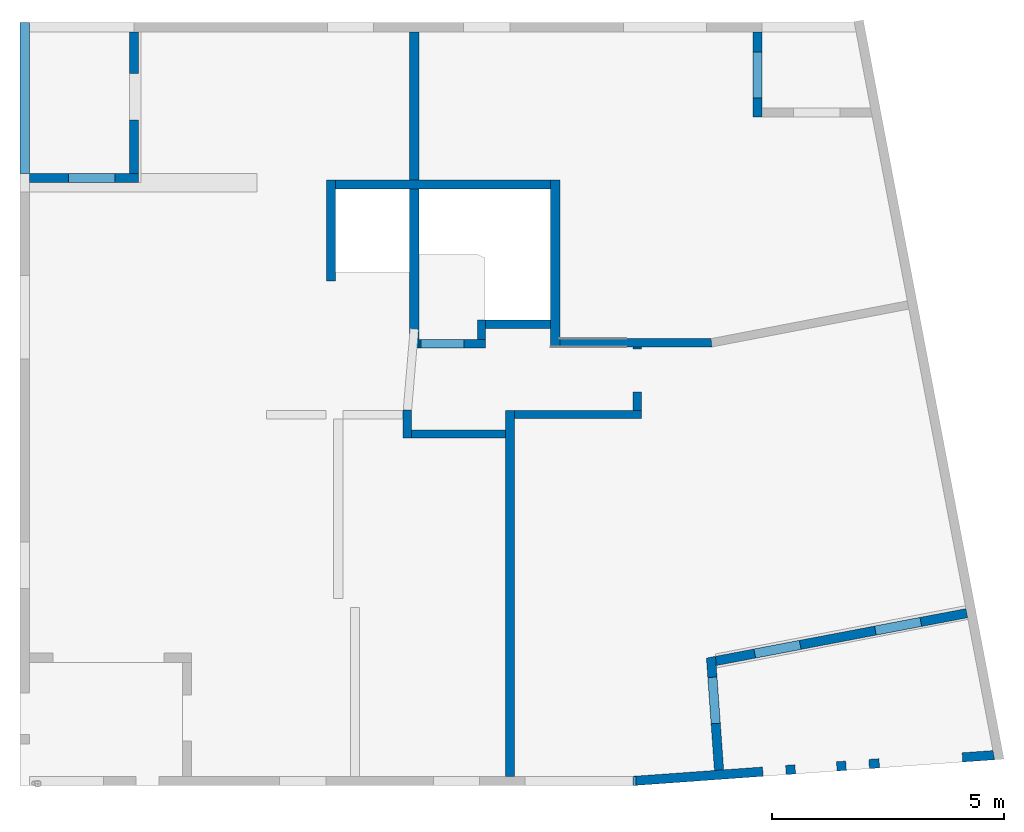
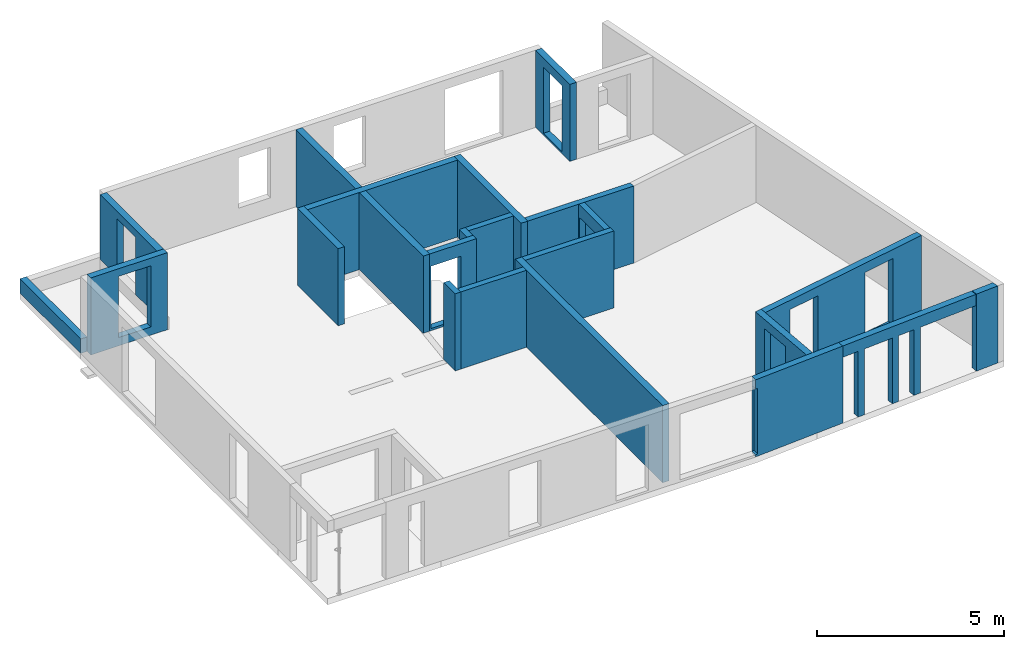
# One storey, part 2 of 3: 22 walls, 15 openings.
"""IFC2X3 building model written with IfcOpenShell, lengths in centimetres."""

from ifc_helpers import new_model, entity, si_unit, converted_unit, derived_unit, direction, frame, frame_2d, origin, place, context, subcontext, project, spatial, polyline, rectangle, outline, extrude, clip, bounded_halfspace, material, layer, layer_set, layer_usage, type_object, element, save


model = new_model("IFC2X3")

# Units and contexts
model_context = context("Model", 3, precision=0.001, world=origin(), true_north=direction((6.12303176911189e-17, 1.0)))
body_context = subcontext(model_context, "Body", "Model", "MODEL_VIEW")
ifc_project = project(units=[si_unit("LENGTHUNIT", "METRE", prefix="CENTI"), si_unit("AREAUNIT", "SQUARE_METRE"), si_unit("VOLUMEUNIT", "CUBIC_METRE"), converted_unit("PLANEANGLEUNIT", "DEGREE", entity("IfcRatioMeasure", 0.0174532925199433), si_unit("PLANEANGLEUNIT", "RADIAN"), dimensions=[0, 0, 0, 0, 0, 0, 0]), si_unit("MASSUNIT", "GRAM", prefix="KILO"), si_unit("TIMEUNIT", "SECOND"), si_unit("FREQUENCYUNIT", "HERTZ"), si_unit("THERMODYNAMICTEMPERATUREUNIT", "DEGREE_CELSIUS"), derived_unit("THERMALTRANSMITTANCEUNIT", [(si_unit("MASSUNIT", "GRAM", prefix="KILO"), 1), (si_unit("THERMODYNAMICTEMPERATUREUNIT", "KELVIN"), -1), (si_unit("TIMEUNIT", "SECOND"), -3)]), derived_unit("VOLUMETRICFLOWRATEUNIT", [(si_unit("LENGTHUNIT", "METRE"), 3), (si_unit("TIMEUNIT", "SECOND"), -1)]), si_unit("ELECTRICCURRENTUNIT", "AMPERE"), si_unit("ELECTRICVOLTAGEUNIT", "VOLT"), si_unit("POWERUNIT", "WATT"), si_unit("FORCEUNIT", "NEWTON"), si_unit("ILLUMINANCEUNIT", "LUX"), si_unit("LUMINOUSFLUXUNIT", "LUMEN"), si_unit("LUMINOUSINTENSITYUNIT", "CANDELA"), derived_unit("USERDEFINED", [(si_unit("MASSUNIT", "GRAM", prefix="KILO"), -1), (si_unit("LENGTHUNIT", "METRE"), -2), (si_unit("TIMEUNIT", "SECOND"), 3), (si_unit("LUMINOUSFLUXUNIT", "LUMEN"), 1)]), derived_unit("LINEARVELOCITYUNIT", [(si_unit("LENGTHUNIT", "METRE"), 1), (si_unit("TIMEUNIT", "SECOND"), -1)]), si_unit("PRESSUREUNIT", "PASCAL"), derived_unit("USERDEFINED", [(si_unit("LENGTHUNIT", "METRE"), -2), (si_unit("MASSUNIT", "GRAM", prefix="KILO"), 1), (si_unit("TIMEUNIT", "SECOND"), -2)])], contexts=[model_context])

# Site, building, storey
site_placement = place(None, origin())
site = spatial("IfcSite", under=ifc_project, at=site_placement, Name="Default", CompositionType="ELEMENT")
building_placement = place(site_placement, origin())
building = spatial("IfcBuilding", under=site, at=building_placement, CompositionType="ELEMENT")
storey_placement = place(building_placement, frame((0.0, 0.0, 272.0)))
storey = spatial("IfcBuildingStorey", under=building, at=storey_placement, Name="R+1", CompositionType="ELEMENT", Elevation=271.999999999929)

# Wall, opening
ifc_material_1 = material(Name="Maçonnerie - Béton")
ifc_layer_1 = layer(ifc_material_1, 20.0)
ifc_layer_set_1 = layer_set([ifc_layer_1], Name="Mur de base:BBM_20")
ifc_layer_usage_1 = layer_usage(ifc_layer_set_1, "AXIS2", "POSITIVE", -10.0)
wall_type_1 = type_object("IfcWallType", Name="Mur de base:BBM_20", PredefinedType="STANDARD", material=ifc_layer_set_1)
wall_1_placement = place(storey_placement, frame((896.385889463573, 24519.301413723, -7.0)))
wall_1 = element("IfcWallStandardCase", 1, at=wall_1_placement, inside=storey, type_object=wall_type_1, material=ifc_layer_usage_1, Name="Mur de base:BBM_20", ObjectType="Mur de base:BBM_20", context=body_context, shape_type="Clipping", body=[
    clip(extrude(rectangle(XDim=236.02536059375, YDim=20.0000000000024, at=frame_2d((118.012680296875, 0.0), x_axis=(-1.0, 0.0))), origin(), (0.0, 0.0, 1.0), 252.000000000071), bounded_halfspace(frame((0.0, -10.0, 252.0), z_axis=(0.0, 0.0, -1.0), x_axis=(0.0, -1.0, 0.0)), True, frame((0.0, -10.0, 252.0)), polyline([(0.0, 0.0), (236.02536059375, 0.0), (236.02536059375, 20.0), (216.02536059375, 20.0), (0.0, 20.0), (0.0, 0.0)]))),
])
opening_1_placement = place(wall_1_placement, frame((-896.385889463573, -24519.301413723, 7.0)))
element("IfcOpeningElement", 2, at=opening_1_placement, cuts=wall_1, Name="Mur de base:BBM_20", ObjectType="Opening", context=body_context, shape_type="SweptSolid", body=[
    extrude(rectangle(XDim=200.0, YDim=100.0, at=frame_2d((-1.10134124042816e-13, 0.0), x_axis=(0.0, 1.0))), frame((1031.41125005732, 24356.901413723, 120.0), z_axis=(0.0, 1.0, 0.0), x_axis=(1.0, 0.0, 0.0)), (0.0, 0.0, 1.0), 304.8),
])

ifc_layer_usage_2 = layer_usage(ifc_layer_set_1, "AXIS2", "POSITIVE", -10.0)
wall_2_placement = place(storey_placement, frame((1122.41125005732, 24529.301413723, 33.0), z_axis=(0.0, 0.0, 1.0), x_axis=(0.0, 1.0, 0.0)))
wall_2 = element("IfcWallStandardCase", 3, at=wall_2_placement, inside=storey, type_object=wall_type_1, material=ifc_layer_usage_2, Name="Mur de base:BBM_20", ObjectType="Mur de base:BBM_20", context=body_context, shape_type="Clipping", body=[
    clip(extrude(rectangle(XDim=305.113246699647, YDim=20.0000000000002, at=frame_2d((152.556623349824, 0.0), x_axis=(-1.0, 0.0))), origin(), (0.0, 0.0, 1.0), 212.000000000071), bounded_halfspace(frame((0.0, -10.0, 212.0), z_axis=(0.0, 0.0, -1.0), x_axis=(-1.0, 0.0, 0.0)), True, frame((0.0, -10.0, 212.0)), polyline([(0.0, 0.0), (305.113246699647, 0.0), (305.113246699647, 20.0), (0.0, 20.0), (0.0, 0.0)]))),
])
opening_2_placement = place(wall_2_placement, frame((-24529.301413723, 1122.41125005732, -33.0), z_axis=(0.0, 0.0, 1.0), x_axis=(0.0, -1.0, 0.0)))
element("IfcOpeningElement", 4, at=opening_2_placement, cuts=wall_2, Name="Mur de base:BBM_20", ObjectType="Opening", context=body_context, shape_type="SweptSolid", body=[
    extrude(rectangle(XDim=200.0, YDim=100.000000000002, at=frame_2d((0.0, -1.73372427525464e-12), x_axis=(1.0, 0.0))), frame((1264.81125005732, 24694.4143798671, 120.0), z_axis=(-1.0, 0.0, 0.0), x_axis=(0.0, 0.0, -1.0)), (0.0, 0.0, 1.0), 304.8),
])

ifc_layer_usage_3 = layer_usage(ifc_layer_set_1, "AXIS2", "NEGATIVE", 10.0)
wall_3_placement = place(storey_placement, frame((2468.78827646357, 24650.4665988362, -7.0), z_axis=(0.0, 0.0, 1.0), x_axis=(0.0, 1.0, 0.0)))
wall_3 = element("IfcWallStandardCase", 5, at=wall_3_placement, inside=storey, type_object=wall_type_1, material=ifc_layer_usage_3, Name="Mur de base:BBM_20", ObjectType="Mur de base:BBM_20", context=body_context, shape_type="Clipping", body=[
    clip(extrude(rectangle(XDim=183.948061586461, YDim=19.9999999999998, at=frame_2d((91.9740307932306, 0.0), x_axis=(-1.0, 0.0))), origin(), (0.0, 0.0, 1.0), 252.000000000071), bounded_halfspace(frame((0.0, -10.0, 252.0), z_axis=(0.0, 0.0, -1.0), x_axis=(-1.0, 0.0, 0.0)), True, frame((0.0, -10.0, 252.0)), polyline([(0.0, 0.0), (20.0, 0.0), (159.644905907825, 0.0), (183.948061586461, 0.0), (183.948061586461, 20.0), (0.0, 20.0), (0.0, 0.0)]))),
])
opening_3_placement = place(wall_3_placement, frame((-24650.4665988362, 2468.78827646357, 7.0), z_axis=(0.0, 0.0, 1.0), x_axis=(0.0, -1.0, 0.0)))
element("IfcOpeningElement", 6, at=opening_3_placement, cuts=wall_3, Name="Mur de base:BBM_20", ObjectType="Opening", context=body_context, shape_type="SweptSolid", body=[
    extrude(rectangle(XDim=215.0, YDim=100.000000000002, at=frame_2d((2.1316282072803e-14, 1.73372427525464e-12), x_axis=(1.0, 0.0))), frame((2611.18827646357, 24741.4665988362, 107.5), z_axis=(-1.0, 0.0, 0.0), x_axis=(0.0, 0.0, -1.0)), (0.0, 0.0, 1.0), 304.8),
])

# Wall, openings
ifc_layer_usage_4 = layer_usage(ifc_layer_set_1, "AXIS2", "NEGATIVE", 10.0)
wall_4_placement = place(storey_placement, frame((2377.58832301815, 23476.1672164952, -7.0), z_axis=(0.0, 0.0, 1.0), x_axis=(0.982345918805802, 0.187073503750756, 0.0)))
wall_4 = element("IfcWallStandardCase", 7, at=wall_4_placement, inside=storey, type_object=wall_type_1, material=ifc_layer_usage_4, Name="Mur de base:BBM_20", ObjectType="Mur de base:BBM_20", context=body_context, shape_type="Clipping", body=[
    clip(extrude(outline(polyline([(552.583846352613, -10.0), (552.583846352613, 10.0), (2.34328815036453, 10.0), (0.0, -10.0), (552.583846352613, -10.0)])), origin(), (0.0, 0.0, 1.0), 252.000000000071), bounded_halfspace(frame((0.0, -10.0, 252.0), z_axis=(0.0, 0.0, -1.0), x_axis=(-0.187073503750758, -0.982345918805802, 0.0)), True, frame((0.0, -10.0, 252.0)), polyline([(0.0, 0.0), (552.583846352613, 0.0), (552.583846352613, 20.0), (2.34328815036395, 20.0), (0.0, 0.0)]))),
])
opening_4_placement = place(wall_4_placement, frame((-6727.3830415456, -22616.9332762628, 7.0), z_axis=(0.0, 0.0, 1.0), x_axis=(0.982345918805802, -0.187073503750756, 0.0)))
element("IfcOpeningElement", 8, at=opening_4_placement, cuts=wall_4, Name="Mur de base:BBM_20", ObjectType="Opening", context=body_context, shape_type="SweptSolid", body=[
    extrude(rectangle(XDim=215.0, YDim=100.0, at=frame_2d((2.8421709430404e-14, 0.0), x_axis=(1.0, 0.0))), frame((2538.40017399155, 23361.8323763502, 107.5), z_axis=(-0.18707350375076, 0.982345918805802, 0.0), x_axis=(0.0, 0.0, -1.0)), (0.0, 0.0, 1.0), 304.800000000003),
])
opening_5_placement = place(wall_4_placement, frame((-6727.3830415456, -22616.9332762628, 7.0), z_axis=(0.0, 0.0, 1.0), x_axis=(0.982345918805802, -0.187073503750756, 0.0)))
element("IfcOpeningElement", 9, at=opening_5_placement, cuts=wall_4, Name="Mur de base:BBM_20", ObjectType="Opening", context=body_context, shape_type="SweptSolid", body=[
    extrude(rectangle(XDim=215.0, YDim=100.0, at=frame_2d((-2.1316282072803e-13, 2.8421709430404e-14), x_axis=(0.0, 1.0))), frame((2802.4633125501, 23391.7599364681, 107.5), z_axis=(-0.187073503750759, 0.982345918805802, 0.0), x_axis=(0.982345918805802, 0.187073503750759, 0.0)), (0.0, 0.0, 1.0), 304.800000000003),
])

# Wall, opening
ifc_layer_usage_5 = layer_usage(ifc_layer_set_1, "AXIS2", "POSITIVE", -10.0)
wall_5_placement = place(storey_placement, frame((2368.04509330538, 23485.7141576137, -7.0), z_axis=(0.0, 0.0, 1.0), x_axis=(0.0714885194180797, -0.997441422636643, 0.0)))
wall_5 = element("IfcWallStandardCase", 10, at=wall_5_placement, inside=storey, type_object=wall_type_1, material=ifc_layer_usage_5, Name="Mur de base:BBM_20", ObjectType="Mur de base:BBM_20", context=body_context, shape_type="Clipping", body=[
    clip(extrude(outline(polyline([(245.696513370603, -10.0), (245.696513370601, 10.0), (20.1368070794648, 10.0), (0.0, 10.0), (2.34328815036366, -10.0), (245.696513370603, -10.0)])), origin(), (0.0, 0.0, 1.0), 252.000000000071), bounded_halfspace(frame((2.34328815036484, -10.0, 252.0), z_axis=(0.0, 0.0, -1.0), x_axis=(0.997441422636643, -0.0714885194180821, 0.0)), True, frame((2.34328815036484, -10.0, 252.0)), polyline([(0.0, 0.0), (243.353225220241, 0.0), (243.353225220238, 20.0), (17.7935189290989, 20.0), (-2.34328815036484, 20.0), (0.0, 0.0)]))),
])
opening_6_placement = place(wall_5_placement, frame((23256.3361033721, -4040.94519933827, 7.0), z_axis=(0.0, 0.0, 1.0), x_axis=(0.0714885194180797, 0.997441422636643, 0.0)))
element("IfcOpeningElement", 11, at=opening_6_placement, cuts=wall_5, Name="Mur de base:BBM_20", ObjectType="Opening", context=body_context, shape_type="SweptSolid", body=[
    extrude(rectangle(XDim=215.0, YDim=100.000000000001, at=frame_2d((2.8421709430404e-14, -1.74082970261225e-12), x_axis=(1.0, 0.0))), frame((2232.77914825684, 23381.0799674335, 107.5), z_axis=(0.997441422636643, 0.0714885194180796, 0.0), x_axis=(0.0, 0.0, -1.0)), (0.0, 0.0, 1.0), 304.800000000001),
])

# Wall, openings
ifc_layer_usage_6 = layer_usage(ifc_layer_set_1, "AXIS2", "POSITIVE", -10.0)
wall_6_placement = place(storey_placement, frame((2199.41667355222, 23217.2758279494, -7.0), z_axis=(0.0, 0.0, 1.0), x_axis=(0.997441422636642, 0.0714885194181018, 0.0)))
wall_6 = element("IfcWallStandardCase", 12, at=wall_6_placement, inside=storey, type_object=wall_type_1, material=ifc_layer_usage_6, Name="Mur de base:BBM_20", ObjectType="Mur de base:BBM_20", context=body_context, shape_type="Clipping", body=[
    clip(clip(extrude(outline(polyline([(281.435112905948, -10.0), (281.435112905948, 10.0), (197.387229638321, 10.0), (177.387229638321, 10.0), (0.715800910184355, 10.0), (0.0, -10.0), (281.435112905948, -10.0)])), origin(), (0.0, 0.0, 1.0), 252.000000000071), bounded_halfspace(frame((0.0, -10.0, 252.0), z_axis=(0.0, 0.0, -1.0), x_axis=(-0.0714885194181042, -0.997441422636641, 0.0)), True, frame((0.0, -10.0, 252.0)), polyline([(0.0, 0.0), (197.38722963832, 0.0), (197.387229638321, 20.0), (177.387229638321, 20.0), (0.715800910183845, 20.0), (0.0, 0.0)]))), bounded_halfspace(frame((197.387229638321, -10.0, 252.0), z_axis=(0.0, 0.0, -1.0), x_axis=(0.11636840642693, -0.993206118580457, 0.0)), True, frame((197.387229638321, -10.0, 252.0)), polyline([(0.0, 0.0), (84.0478832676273, 0.0), (84.0478832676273, 20.0), (0.0, 20.0), (0.0, 0.0)]))),
])
opening_7_placement = place(wall_6_placement, origin())
element("IfcOpeningElement", 13, at=opening_7_placement, cuts=wall_6, Name="Mur de base:BBM_20", ObjectType="Opening", context=body_context, shape_type="SweptSolid", body=[
    extrude(rectangle(XDim=215.0, YDim=240.0, at=frame_2d((0.0, 2.8421709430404e-14), x_axis=(0.0, 1.0))), frame((-113.692399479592, -1.85144999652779, 114.5), z_axis=(0.0714885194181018, 0.997441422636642, 0.0), x_axis=(0.997441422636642, -0.0714885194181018, 0.0)), (0.0, 0.0, 1.0), 19.9999999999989),
])
opening_8_placement = place(wall_6_placement, origin())
element("IfcOpeningElement", 14, at=opening_8_placement, cuts=wall_6, Name="Mur de base:BBM_20", ObjectType="Opening", context=body_context, shape_type="SweptSolid", body=[
    extrude(rectangle(XDim=215.0, YDim=49.9999999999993, at=frame_2d((-2.1316282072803e-14, 2.16715534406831e-13), x_axis=(1.0, 0.0))), frame((306.435112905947, -142.399999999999, 107.5), z_axis=(0.0, 1.0, 0.0), x_axis=(0.0, 0.0, -1.0)), (0.0, 0.0, 1.0), 304.8),
])

# Wall, opening
ifc_layer_usage_7 = layer_usage(ifc_layer_set_1, "AXIS2", "POSITIVE", -10.0)
wall_7_placement = place(storey_placement, frame((2909.04162327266, 23267.9943705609, -7.0), z_axis=(0.0, 0.0, 1.0), x_axis=(0.997441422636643, 0.0714885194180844, 0.0)))
wall_7 = element("IfcWallStandardCase", 15, at=wall_7_placement, inside=storey, type_object=wall_type_1, material=ifc_layer_usage_7, Name="Mur de base:BBM_20", ObjectType="Mur de base:BBM_20", context=body_context, shape_type="Clipping", body=[
    clip(extrude(outline(polyline([(68.7599523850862, 10.0), (2.0, 10.0), (2.0, -10.0), (71.1032405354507, -10.0), (68.7599523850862, 10.0)])), origin(), (0.0, 0.0, 1.0), 252.000000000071), bounded_halfspace(frame((71.0866896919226, -9.85873829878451, 252.0), z_axis=(0.0, 0.0, -1.0), x_axis=(0.116368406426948, -0.993206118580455, 0.0)), True, frame((71.0866896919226, -9.85873829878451, 252.0)), polyline([(0.0, 0.0), (-2.32673730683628, 19.8587382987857), (-71.0866896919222, 19.8587382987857), (-71.0866896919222, 0.0), (0.0, 0.0)]))),
])
opening_9_placement = place(wall_7_placement, origin())
element("IfcOpeningElement", 16, at=opening_9_placement, cuts=wall_7, Name="Mur de base:BBM_20", ObjectType="Opening", context=body_context, shape_type="SweptSolid", body=[
    extrude(rectangle(XDim=215.0, YDim=180.0, at=frame_2d((-2.20268248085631e-13, -2.8421709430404e-14), x_axis=(0.0, 1.0))), frame((-88.0, -162.258738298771, 107.5), z_axis=(0.0, 1.0, 0.0), x_axis=(1.0, 0.0, 0.0)), (0.0, 0.0, 1.0), 304.8),
])

# Walls
ifc_layer_usage_8 = layer_usage(ifc_layer_set_1, "AXIS2", "NEGATIVE", 10.0)
wall_8_placement = place(storey_placement, frame((886.385889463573, 24529.301413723, -7.0), z_axis=(0.0, 0.0, 1.0), x_axis=(0.0, 1.0, 0.0)))
element("IfcWallStandardCase", 17, at=wall_8_placement, inside=storey, type_object=wall_type_1, material=ifc_layer_usage_8, Name="Mur de base:BBM_20", ObjectType="Mur de base:BBM_20", context=body_context, shape_type="SweptSolid", body=[
    extrude(rectangle(XDim=325.112966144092, YDim=20.0, at=frame_2d((162.556483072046, 8.88178419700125e-15), x_axis=(-1.0, 0.0))), origin(), (0.0, 0.0, 1.0), 46.9999999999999),
])
ifc_material_2 = material(Name="Béton_C25/30")
ifc_layer_2 = layer(ifc_material_2, 20.0)
ifc_layer_set_2 = layer_set([ifc_layer_2], Name="Mur de base:VOILE_20_C25/30")
ifc_layer_usage_9 = layer_usage(ifc_layer_set_2, "AXIS2", "NEGATIVE", 10.0)
wall_type_2 = type_object("IfcWallType", Name="Mur de base:VOILE_20_C25/30", PredefinedType="STANDARD", material=ifc_layer_set_2)
wall_9_placement = place(storey_placement, frame((1547.79189994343, 24296.306363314, -7.0), z_axis=(0.0, 0.0, 1.0), x_axis=(0.0, 1.0, 0.0)))
element("IfcWallStandardCase", 18, at=wall_9_placement, inside=storey, type_object=wall_type_2, material=ifc_layer_usage_9, Name="Mur de base:VOILE_20_C25/30", ObjectType="Mur de base:VOILE_20_C25/30", context=body_context, shape_type="Clipping", body=[
    clip(extrude(rectangle(XDim=218.83329536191, YDim=19.9999999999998, at=frame_2d((109.416647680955, 0.0), x_axis=(-1.0, 0.0))), origin(), (0.0, 0.0, 1.0), 252.000000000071), bounded_halfspace(frame((0.0, -10.0, 252.0), z_axis=(0.0, 0.0, -1.0), x_axis=(-1.0, 0.0, 0.0)), True, frame((0.0, -10.0, 252.0)), polyline([(0.0, 0.0), (198.833295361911, 0.0), (218.83329536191, 0.0), (218.83329536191, 20.0), (0.0, 20.0), (0.0, 0.0)]))),
])
ifc_layer_usage_10 = layer_usage(ifc_layer_set_2, "AXIS2", "POSITIVE", -10.0)
wall_10_placement = place(storey_placement, frame((2021.79260883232, 24505.1396586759, -7.0), z_axis=(0.0, 0.0, 1.0), x_axis=(-1.0, 0.0, 0.0)))
element("IfcWallStandardCase", 19, at=wall_10_placement, inside=storey, type_object=wall_type_2, material=ifc_layer_usage_10, Name="Mur de base:VOILE_20_C25/30", ObjectType="Mur de base:VOILE_20_C25/30", context=body_context, shape_type="Clipping", body=[
    clip(extrude(rectangle(XDim=464.000708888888, YDim=20.0000000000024, at=frame_2d((232.000354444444, 0.0), x_axis=(-1.0, 0.0))), origin(), (0.0, 0.0, 1.0), 252.000000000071), bounded_halfspace(frame((0.0, -10.0, 252.0), z_axis=(0.0, 0.0, -1.0), x_axis=(0.0, 1.0, 0.0)), True, frame((0.0, -10.0, 252.0)), polyline([(0.0, 0.0), (284.000464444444, 0.0), (304.000464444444, 0.0), (464.000708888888, 0.0), (464.000708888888, 20.0), (304.000464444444, 20.0), (284.000464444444, 20.0), (0.0, 20.0), (0.0, 0.0)]))),
])
wall_11_placement = place(storey_placement, frame((1727.79214438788, 24152.3058652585, -7.0), z_axis=(0.0, 0.0, 1.0), x_axis=(0.0, 1.0, 0.0)))
element("IfcWall", 20, at=wall_11_placement, inside=storey, type_object=wall_type_2, Name="Mur de base:VOILE_20_C25/30", ObjectType="Mur de base:VOILE_20_C25/30", context=body_context, shape_type="SweptSolid", body=[
    extrude(rectangle(XDim=342.833793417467, YDim=20.0, at=frame_2d((30.683379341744, 1.99999999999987), x_axis=(1.0, 0.0))), frame((140.733517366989, -2.0, 0.0)), (0.0, 0.0, 1.0), 252.000000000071),
    extrude(rectangle(XDim=319.275001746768, YDim=20.0, at=frame_2d((0.0, 1.08357767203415e-13), x_axis=(1.0, 0.0))), frame((522.47129429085, 0.0, 0.0), z_axis=(0.0, 0.0, 1.0), x_axis=(-1.0, 0.0, 0.0)), (0.0, 0.0, 1.0), 252.000000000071),
])
ifc_layer_usage_11 = layer_usage(ifc_layer_set_2, "AXIS2", "NEGATIVE", 10.0)
wall_12_placement = place(storey_placement, frame((2031.79260883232, 24154.305840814, -7.0), z_axis=(0.0, 0.0, 1.0), x_axis=(0.0, 1.0, 0.0)))
element("IfcWallStandardCase", 21, at=wall_12_placement, inside=storey, type_object=wall_type_2, material=ifc_layer_usage_11, Name="Mur de base:VOILE_20_C25/30", ObjectType="Mur de base:VOILE_20_C25/30", context=body_context, shape_type="Clipping", body=[
    clip(extrude(rectangle(XDim=360.833817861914, YDim=19.9999999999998, at=frame_2d((180.416908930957, 0.0), x_axis=(-1.0, 0.0))), origin(), (0.0, 0.0, 1.0), 252.000000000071), bounded_halfspace(frame((0.0, -10.0, 252.0), z_axis=(0.0, 0.0, -1.0), x_axis=(-1.0, 0.0, 0.0)), True, frame((0.0, -10.0, 252.0)), polyline([(0.0, 0.0), (18.0, 0.0), (360.833817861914, 0.0), (360.833817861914, 20.0), (340.833817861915, 20.0), (58.0000886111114, 20.0), (40.000088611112, 20.0), (0.0, 20.0), (0.0, 0.0)]))),
])
ifc_layer_usage_12 = layer_usage(ifc_layer_set_2, "AXIS2", "NEGATIVE", 10.0)
wall_13_placement = place(storey_placement, frame((1934.14752229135, 24017.3056315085, -7.0), z_axis=(0.0, 0.0, 1.0), x_axis=(0.0, -1.0, 0.0)))
element("IfcWallStandardCase", 22, at=wall_13_placement, inside=storey, type_object=wall_type_2, material=ifc_layer_usage_12, Name="Mur de base:VOILE_20_C25/30", ObjectType="Mur de base:VOILE_20_C25/30", context=body_context, shape_type="Clipping", body=[
    clip(extrude(rectangle(XDim=790.004217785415, YDim=19.9999999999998, at=frame_2d((395.002108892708, 3.5527136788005e-15), x_axis=(-1.0, 0.0))), origin(), (0.0, 0.0, 1.0), 252.000000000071), bounded_halfspace(frame((0.0, -10.0, 252.0), z_axis=(0.0, 0.0, -1.0), x_axis=(1.0, 0.0, 0.0)), True, frame((0.0, -10.0, 252.0)), polyline([(0.0, 0.0), (42.0000641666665, 0.0), (60.0000641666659, 0.0), (790.004217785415, 0.0), (790.004217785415, 20.0), (18.0, 20.0), (0.0, 20.0), (0.0, 0.0)]))),
])

# Wall, openings
ifc_layer_usage_13 = layer_usage(ifc_layer_set_2, "AXIS2", "NEGATIVE", 10.0)
wall_14_placement = place(storey_placement, frame((2480.13171294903, 23237.3952074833, -7.0), z_axis=(0.0, 0.0, 1.0), x_axis=(0.997441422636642, 0.0714885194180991, 0.0)))
wall_14 = element("IfcWallStandardCase", 23, at=wall_14_placement, inside=storey, type_object=wall_type_2, material=ifc_layer_usage_13, Name="Mur de base:VOILE_20_C25/30", ObjectType="Mur de base:VOILE_20_C25/30", context=body_context, shape_type="Clipping", body=[
    clip(extrude(rectangle(XDim=429.999999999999, YDim=20.0000000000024, at=frame_2d((214.999999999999, 5.27577981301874e-13), x_axis=(-1.0, 0.0))), origin(), (0.0, 0.0, 1.0), 252.000000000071), bounded_halfspace(frame((0.0, -10.0, 252.0), z_axis=(0.0, 0.0, -1.0), x_axis=(0.116368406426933, -0.993206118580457, 0.0)), True, frame((0.0, -10.0, 252.0)), polyline([(0.0, 0.0), (430.0, 0.0), (430.0, 19.8587382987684), (430.0, 20.0), (0.0, 20.0), (0.0, 0.0)]))),
])
opening_10_placement = place(wall_14_placement, frame((-4134.99308260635, -23000.6395900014, 7.0), z_axis=(0.0, 0.0, 1.0), x_axis=(0.997441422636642, -0.0714885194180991, 0.0)))
element("IfcOpeningElement", 24, at=opening_10_placement, cuts=wall_14, Name="Mur de base:VOILE_20_C25/30", ObjectType="Opening", context=body_context, shape_type="SweptSolid", body=[
    extrude(rectangle(XDim=215.0, YDim=49.9999999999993, at=frame_2d((-2.1316282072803e-14, 2.16715534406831e-13), x_axis=(1.0, 0.0))), frame((2515.24771368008, 23097.1467618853, 100.5), z_axis=(-0.0714885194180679, 0.997441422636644, 0.0), x_axis=(0.0, 0.0, -1.0)), (0.0, 0.0, 1.0), 304.799999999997),
])
opening_11_placement = place(wall_14_placement, frame((-4134.99308260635, -23000.6395900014, 7.0), z_axis=(0.0, 0.0, 1.0), x_axis=(0.997441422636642, -0.0714885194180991, 0.0)))
element("IfcOpeningElement", 25, at=opening_11_placement, cuts=wall_14, Name="Mur de base:VOILE_20_C25/30", ObjectType="Opening", context=body_context, shape_type="SweptSolid", body=[
    extrude(rectangle(XDim=215.0, YDim=180.0, at=frame_2d((-2.20268248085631e-13, -2.8421709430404e-14), x_axis=(0.0, 1.0))), frame((2832.86641504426, 23099.8597940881, 100.5), z_axis=(-0.0714885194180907, 0.997441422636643, 0.0), x_axis=(0.997441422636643, 0.0714885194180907, 0.0)), (0.0, 0.0, 1.0), 304.800000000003),
])
opening_12_placement = place(wall_14_placement, frame((-4134.99308260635, -23000.6395900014, 7.0), z_axis=(0.0, 0.0, 1.0), x_axis=(0.997441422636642, -0.0714885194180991, 0.0)))
element("IfcOpeningElement", 26, at=opening_12_placement, cuts=wall_14, Name="Mur de base:VOILE_20_C25/30", ObjectType="Opening", context=body_context, shape_type="SweptSolid", body=[
    extrude(rectangle(XDim=215.0, YDim=89.9999999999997, at=frame_2d((-3.37507799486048e-13, -2.8421709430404e-14), x_axis=(0.0, 1.0))), frame((2606.44721210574, 23083.6319001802, 100.5), z_axis=(-0.0714885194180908, 0.997441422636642, 0.0), x_axis=(0.997441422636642, 0.0714885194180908, 0.0)), (0.0, 0.0, 1.0), 304.8),
])
opening_13_placement = place(wall_14_placement, frame((-4134.99308260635, -23000.6395900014, 7.0), z_axis=(0.0, 0.0, 1.0), x_axis=(0.997441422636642, -0.0714885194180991, 0.0)))
element("IfcOpeningElement", 27, at=opening_13_placement, cuts=wall_14, Name="Mur de base:VOILE_20_C25/30", ObjectType="Opening", context=body_context, shape_type="SweptSolid", body=[
    extrude(rectangle(XDim=215.0, YDim=49.9999999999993, at=frame_2d((-2.1316282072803e-14, 2.16715534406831e-13), x_axis=(1.0, 0.0))), frame((2694.78716975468, 23110.0146953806, 100.5), z_axis=(-0.0714885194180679, 0.997441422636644, 0.0), x_axis=(0.0, 0.0, -1.0)), (0.0, 0.0, 1.0), 304.8),
])

# Wall, opening
ifc_layer_3 = layer(ifc_material_2, 18.0)
ifc_layer_set_3 = layer_set([ifc_layer_3], Name="Mur de base:VOILE_18_C25/30")
ifc_layer_usage_14 = layer_usage(ifc_layer_set_3, "AXIS2", "NEGATIVE", 9.0)
wall_type_3 = type_object("IfcWallType", Name="Mur de base:VOILE_18_C25/30", PredefinedType="STANDARD", material=ifc_layer_set_3)
wall_15_placement = place(storey_placement, frame((1881.79239494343, 24161.3058652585, -7.0), z_axis=(0.0, 0.0, 1.0), x_axis=(-1.0, 0.0, 0.0)))
wall_15 = element("IfcWallStandardCase", 28, at=wall_15_placement, inside=storey, type_object=wall_type_3, material=ifc_layer_usage_14, Name="Mur de base:VOILE_18_C25/30", ObjectType="Mur de base:VOILE_18_C25/30", context=body_context, shape_type="Clipping", body=[
    clip(extrude(rectangle(XDim=144.000250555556, YDim=18.0000000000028, at=frame_2d((72.0001252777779, 0.0), x_axis=(-1.0, 0.0))), origin(), (0.0, 0.0, 1.0), 252.000000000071), bounded_halfspace(frame((0.0, -9.0, 252.0), z_axis=(0.0, 0.0, -1.0), x_axis=(0.0, 1.0, 0.0)), True, frame((0.0, -9.0, 252.0)), polyline([(0.0, 0.0), (18.0, 0.0), (144.000250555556, 0.0), (144.000250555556, 18.0), (0.0, 18.0), (0.0, 0.0)]))),
])
opening_14_placement = place(wall_15_placement, frame((1881.79239494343, 24161.3058652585, 7.0), z_axis=(0.0, 0.0, 1.0), x_axis=(-1.0, 0.0, 0.0)))
element("IfcOpeningElement", 29, at=opening_14_placement, cuts=wall_15, Name="Mur de base:VOILE_18_C25/30", ObjectType="Opening", context=body_context, shape_type="SweptSolid", body=[
    extrude(rectangle(XDim=204.0, YDim=93.0000000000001, at=frame_2d((0.0, 0.0), x_axis=(0.0, 1.0))), frame((1788.29214438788, 24322.7058652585, 102.0), z_axis=(0.0, -1.0, 0.0), x_axis=(-1.0, 0.0, 0.0)), (0.0, 0.0, 1.0), 304.8),
])

# Walls
ifc_layer_usage_15 = layer_usage(ifc_layer_set_3, "AXIS2", "NEGATIVE", 9.0)
wall_16_placement = place(storey_placement, frame((1872.79239494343, 24170.3058652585, -7.0), z_axis=(0.0, 0.0, 1.0), x_axis=(0.0, 1.0, 0.0)))
element("IfcWallStandardCase", 30, at=wall_16_placement, inside=storey, type_object=wall_type_3, material=ifc_layer_usage_15, Name="Mur de base:VOILE_18_C25/30", ObjectType="Mur de base:VOILE_18_C25/30", context=body_context, shape_type="Clipping", body=[
    clip(extrude(rectangle(XDim=42.0000641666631, YDim=17.9999999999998, at=frame_2d((21.0000320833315, 0.0), x_axis=(-1.0, 0.0))), origin(), (0.0, 0.0, 1.0), 252.000000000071), bounded_halfspace(frame((0.0, -9.0, 252.0), z_axis=(0.0, 0.0, -1.0), x_axis=(-1.0, 0.0, 0.0)), True, frame((0.0, -9.0, 252.0)), polyline([(0.0, 0.0), (24.0000641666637, 0.0), (42.0000641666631, 0.0), (42.0000641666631, 18.0), (0.0, 18.0), (0.0, 0.0)]))),
])
ifc_layer_usage_16 = layer_usage(ifc_layer_set_3, "AXIS2", "NEGATIVE", 9.0)
wall_17_placement = place(storey_placement, frame((1881.79239494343, 24203.3059294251, -7.0)))
element("IfcWallStandardCase", 31, at=wall_17_placement, inside=storey, type_object=wall_type_3, material=ifc_layer_usage_16, Name="Mur de base:VOILE_18_C25/30", ObjectType="Mur de base:VOILE_18_C25/30", context=body_context, shape_type="Clipping", body=[
    clip(extrude(rectangle(XDim=140.000213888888, YDim=18.0000000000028, at=frame_2d((70.0001069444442, 0.0), x_axis=(-1.0, 0.0))), origin(), (0.0, 0.0, 1.0), 252.000000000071), bounded_halfspace(frame((0.0, -9.0, 252.0), z_axis=(0.0, 0.0, -1.0), x_axis=(0.0, -1.0, 0.0)), True, frame((0.0, -9.0, 252.0)), polyline([(0.0, 0.0), (140.000213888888, 0.0), (140.000213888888, 18.0), (0.0, 18.0), (0.0, 0.0)]))),
])
ifc_layer_usage_17 = layer_usage(ifc_layer_set_3, "AXIS2", "NEGATIVE", 9.0)
wall_18_placement = place(storey_placement, frame((2370.09134653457, 24163.305840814, -7.0), z_axis=(0.0, 0.0, 1.0), x_axis=(-1.0, 0.0, 0.0)))
element("IfcWallStandardCase", 32, at=wall_18_placement, inside=storey, type_object=wall_type_3, material=ifc_layer_usage_17, Name="Mur de base:VOILE_18_C25/30", ObjectType="Mur de base:VOILE_18_C25/30", context=body_context, shape_type="Clipping", body=[
    clip(extrude(outline(polyline([(328.298737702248, -9.0), (328.298737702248, 9.0), (0.0, 9.0), (1.71373520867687, -9.0), (328.298737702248, -9.0)])), origin(), (0.0, 0.0, 1.0), 252.000000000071), bounded_halfspace(frame((1.71373520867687, -9.0, 252.0), z_axis=(0.0, 0.0, -1.0), x_axis=(0.0, 1.0, 0.0)), True, frame((1.71373520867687, -9.0, 252.0)), polyline([(0.0, 0.0), (326.585002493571, 0.0), (326.585002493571, 18.0), (168.719700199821, 18.0), (150.719700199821, 18.0), (-1.71373520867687, 18.0), (0.0, 0.0)]))),
])
ifc_layer_usage_18 = layer_usage(ifc_layer_set_3, "AXIS2", "NEGATIVE", 9.0)
wall_19_placement = place(storey_placement, frame((1712.65715029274, 24018.3055673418, -7.0), z_axis=(0.0, 0.0, 1.0), x_axis=(0.0, -1.0, 0.0)))
element("IfcWallStandardCase", 33, at=wall_19_placement, inside=storey, type_object=wall_type_3, material=ifc_layer_usage_18, Name="Mur de base:VOILE_18_C25/30", ObjectType="Mur de base:VOILE_18_C25/30", context=body_context, shape_type="Clipping", body=[
    clip(extrude(rectangle(XDim=61.0, YDim=17.9999999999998, at=frame_2d((30.5, 0.0), x_axis=(-1.0, 0.0))), origin(), (0.0, 0.0, 1.0), 252.000000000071), bounded_halfspace(frame((0.0, -9.0, 252.0), z_axis=(0.0, 0.0, -1.0), x_axis=(1.0, 0.0, 0.0)), True, frame((0.0, -9.0, 252.0)), polyline([(0.0, 0.0), (61.0, 0.0), (61.0, 18.0), (43.0, 18.0), (0.0, 18.0), (0.0, 0.0)]))),
])
ifc_layer_usage_19 = layer_usage(ifc_layer_set_3, "AXIS2", "NEGATIVE", 9.0)
wall_20_placement = place(storey_placement, frame((1924.14752229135, 23966.3055673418, -7.0), z_axis=(0.0, 0.0, 1.0), x_axis=(-1.0, 0.0, 0.0)))
element("IfcWallStandardCase", 34, at=wall_20_placement, inside=storey, type_object=wall_type_3, material=ifc_layer_usage_19, Name="Mur de base:VOILE_18_C25/30", ObjectType="Mur de base:VOILE_18_C25/30", context=body_context, shape_type="Clipping", body=[
    clip(extrude(rectangle(XDim=202.490371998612, YDim=18.0000000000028, at=frame_2d((101.245185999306, 0.0), x_axis=(-1.0, 0.0))), origin(), (0.0, 0.0, 1.0), 252.000000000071), bounded_halfspace(frame((0.0, -9.0, 252.0), z_axis=(0.0, 0.0, -1.0), x_axis=(0.0, 1.0, 0.0)), True, frame((0.0, -9.0, 252.0)), polyline([(0.0, 0.0), (202.490371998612, 0.0), (202.490371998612, 18.0), (0.0, 18.0), (0.0, 0.0)]))),
])
ifc_layer_usage_20 = layer_usage(ifc_layer_set_3, "AXIS2", "NEGATIVE", 9.0)
wall_21_placement = place(storey_placement, frame((1944.14752229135, 24008.3056315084, -7.0)))
element("IfcWallStandardCase", 35, at=wall_21_placement, inside=storey, type_object=wall_type_3, material=ifc_layer_usage_20, Name="Mur de base:VOILE_18_C25/30", ObjectType="Mur de base:VOILE_18_C25/30", context=body_context, shape_type="Clipping", body=[
    clip(extrude(rectangle(XDim=274.329939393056, YDim=18.0000000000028, at=frame_2d((137.164969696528, 0.0), x_axis=(-1.0, 0.0))), origin(), (0.0, 0.0, 1.0), 252.000000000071), bounded_halfspace(frame((0.0, -9.0, 252.0), z_axis=(0.0, 0.0, -1.0), x_axis=(0.0, -1.0, 0.0)), True, frame((0.0, -9.0, 252.0)), polyline([(0.0, 0.0), (274.329939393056, 0.0), (274.329939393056, 18.0), (273.510388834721, 18.0), (255.510388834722, 18.0), (0.0, 18.0), (0.0, 0.0)]))),
])

# Wall, opening
ifc_layer_usage_21 = layer_usage(ifc_layer_set_3, "AXIS2", "NEGATIVE", 9.0)
wall_22_placement = place(storey_placement, frame((2208.65791112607, 24154.305840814, 0.0), z_axis=(0.0, 0.0, 1.0), x_axis=(0.0, -1.0, 0.0)))
wall_22 = element("IfcWallStandardCase", 36, at=wall_22_placement, inside=storey, type_object=wall_type_3, material=ifc_layer_usage_21, Name="Mur de base:VOILE_18_C25/30", ObjectType="Mur de base:VOILE_18_C25/30", context=body_context, shape_type="Clipping", body=[
    clip(extrude(rectangle(XDim=137.000209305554, YDim=18.0000000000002, at=frame_2d((68.5001046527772, 0.0), x_axis=(-1.0, 0.0))), origin(), (0.0, 0.0, 1.0), 245.000000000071), bounded_halfspace(frame((0.0, -9.0, 245.0), z_axis=(0.0, 0.0, -1.0), x_axis=(1.0, 0.0, 0.0)), True, frame((0.0, -9.0, 245.0)), polyline([(0.0, 0.0), (137.000209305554, 0.0), (137.000209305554, 18.0), (0.0, 18.0), (0.0, 0.0)]))),
])
opening_15_placement = place(wall_22_placement, frame((24154.305840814, -2208.65791112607, 0.0), z_axis=(0.0, 0.0, 1.0), x_axis=(0.0, 1.0, 0.0)))
element("IfcOpeningElement", 37, at=opening_15_placement, cuts=wall_22, Name="Mur de base:VOILE_18_C25/30", ObjectType="Opening", context=body_context, shape_type="SweptSolid", body=[
    extrude(rectangle(XDim=204.0, YDim=92.9999999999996, at=frame_2d((-1.73372427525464e-12, 0.0), x_axis=(0.0, 1.0))), frame((2047.25791112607, 24103.805840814, 102.0), z_axis=(1.0, 0.0, 0.0), x_axis=(0.0, -1.0, 0.0)), (0.0, 0.0, 1.0), 304.8),
])

save(model, "model.ifc")
